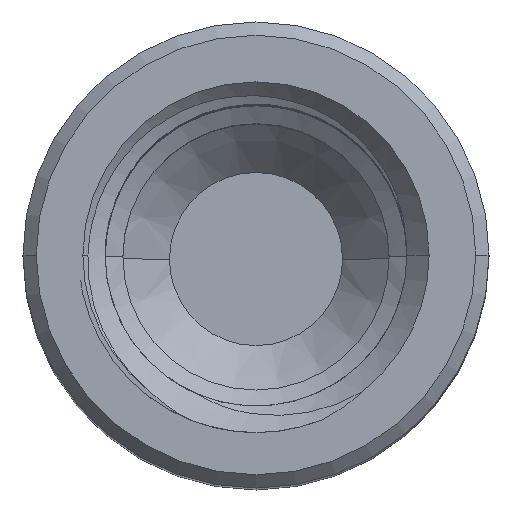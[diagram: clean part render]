
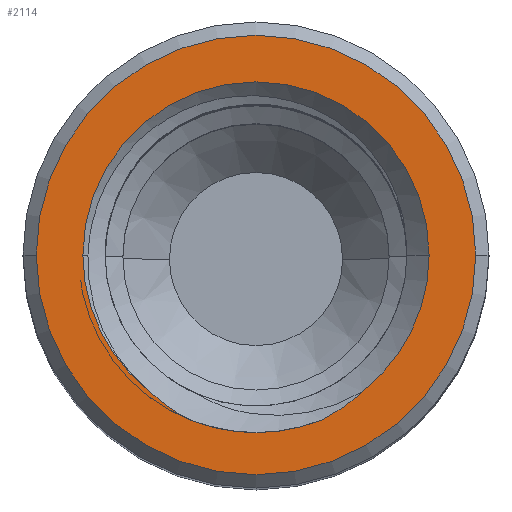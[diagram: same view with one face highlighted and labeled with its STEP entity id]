
A CAD part, top view. The second image highlights one B-rep face of the part: STEP entity #2114.
In plain terms, the highlighted planar face has unit normal (0, 0, 1).
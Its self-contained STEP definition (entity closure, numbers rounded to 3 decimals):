
#133 = AXIS2_PLACEMENT_3D ( 'NONE', #3937, #3227, #4318 ) ;
#154 = AXIS2_PLACEMENT_3D ( 'NONE', #735, #1489, #1882 ) ;
#292 = ORIENTED_EDGE ( 'NONE', *, *, #495, .F. ) ;
#330 = CARTESIAN_POINT ( 'NONE',  ( 0., 0., 52. ) ) ;
#353 = VERTEX_POINT ( 'NONE', #4507 ) ;
#361 = DIRECTION ( 'NONE',  ( 1., 0., 0. ) ) ;
#393 = CIRCLE ( 'NONE', #3859, 3.9 ) ;
#480 = CARTESIAN_POINT ( 'NONE',  ( 0., 0., 52. ) ) ;
#495 = EDGE_CURVE ( 'NONE', #3508, #1969, #537, .T. ) ;
#501 = DIRECTION ( 'NONE',  ( 0., 0., -1. ) ) ;
#537 = CIRCLE ( 'NONE', #1419, 4. ) ;
#662 = ORIENTED_EDGE ( 'NONE', *, *, #4738, .T. ) ;
#664 = CARTESIAN_POINT ( 'NONE',  ( 3.9, 0., 52. ) ) ;
#721 = CARTESIAN_POINT ( 'NONE',  ( 0., 0., 52. ) ) ;
#735 = CARTESIAN_POINT ( 'NONE',  ( 0., 0., 52. ) ) ;
#880 = CARTESIAN_POINT ( 'NONE',  ( 2.125, -3.33, 52. ) ) ;
#1036 = ORIENTED_EDGE ( 'NONE', *, *, #4708, .F. ) ;
#1209 = EDGE_CURVE ( 'NONE', #1969, #353, #2858, .T. ) ;
#1253 = AXIS2_PLACEMENT_3D ( 'NONE', #2070, #3629, #4797 ) ;
#1282 = CARTESIAN_POINT ( 'NONE',  ( -2.395, -3.078, 52. ) ) ;
#1416 = ORIENTED_EDGE ( 'NONE', *, *, #4701, .F. ) ;
#1419 = AXIS2_PLACEMENT_3D ( 'NONE', #4947, #1914, #361 ) ;
#1437 = AXIS2_PLACEMENT_3D ( 'NONE', #330, #3085, #1534 ) ;
#1489 = DIRECTION ( 'NONE',  ( 0., 0., 1. ) ) ;
#1504 = CARTESIAN_POINT ( 'NONE',  ( -3.9, 0., 52. ) ) ;
#1534 = DIRECTION ( 'NONE',  ( 1., 0., 0. ) ) ;
#1593 = CARTESIAN_POINT ( 'NONE',  ( 4.95, 0., 52. ) ) ;
#1627 = FACE_OUTER_BOUND ( 'NONE', #3578, .T. ) ;
#1689 = EDGE_LOOP ( 'NONE', ( #2349, #292, #1036, #1416, #2827, #3882, #4684 ) ) ;
#1882 = DIRECTION ( 'NONE',  ( 1., 0., 0. ) ) ;
#1914 = DIRECTION ( 'NONE',  ( 0., 0., 1. ) ) ;
#1969 = VERTEX_POINT ( 'NONE', #4257 ) ;
#2052 = VERTEX_POINT ( 'NONE', #664 ) ;
#2070 = CARTESIAN_POINT ( 'NONE',  ( 0., 0., 52. ) ) ;
#2114 = ADVANCED_FACE ( 'NONE', ( #3391, #1627 ), #2461, .T. ) ;
#2146 = DIRECTION ( 'NONE',  ( 1., 0., 0. ) ) ;
#2157 = CIRCLE ( 'NONE', #154, 4.95 ) ;
#2214 = CARTESIAN_POINT ( 'NONE',  ( -2.129, -3.327, 52. ) ) ;
#2215 = CIRCLE ( 'NONE', #1253, 3.9 ) ;
#2272 = CARTESIAN_POINT ( 'NONE',  ( -1.495, -3.71, 52. ) ) ;
#2280 = EDGE_CURVE ( 'NONE', #3962, #2891, #2714, .T. ) ;
#2349 = ORIENTED_EDGE ( 'NONE', *, *, #1209, .F. ) ;
#2383 = AXIS2_PLACEMENT_3D ( 'NONE', #3351, #3791, #4521 ) ;
#2392 = VERTEX_POINT ( 'NONE', #3814 ) ;
#2403 = AXIS2_PLACEMENT_3D ( 'NONE', #480, #501, #3538 ) ;
#2416 = CARTESIAN_POINT ( 'NONE',  ( 2.395, -3.078, 52. ) ) ;
#2461 = PLANE ( 'NONE',  #133 ) ;
#2478 = VERTEX_POINT ( 'NONE', #1504 ) ;
#2651 = EDGE_CURVE ( 'NONE', #2478, #2052, #2215, .T. ) ;
#2714 = CIRCLE ( 'NONE', #2383, 4.95 ) ;
#2827 = ORIENTED_EDGE ( 'NONE', *, *, #3749, .T. ) ;
#2858 = B_SPLINE_CURVE_WITH_KNOTS ( 'NONE', 3,
 ( #4728, #4348, #880, #2416 ),
 .UNSPECIFIED., .F., .F.,
 ( 4, 4 ),
 ( 0., 0.001 ),
 .UNSPECIFIED. ) ;
#2891 = VERTEX_POINT ( 'NONE', #1593 ) ;
#3030 = CARTESIAN_POINT ( 'NONE',  ( -1.824, -3.542, 52. ) ) ;
#3085 = DIRECTION ( 'NONE',  ( 0., 0., 1. ) ) ;
#3227 = DIRECTION ( 'NONE',  ( 0., 0., 1. ) ) ;
#3351 = CARTESIAN_POINT ( 'NONE',  ( 0., 0., 52. ) ) ;
#3391 = FACE_BOUND ( 'NONE', #1689, .T. ) ;
#3508 = VERTEX_POINT ( 'NONE', #4468 ) ;
#3521 = B_SPLINE_CURVE_WITH_KNOTS ( 'NONE', 3,
 ( #3871, #2214, #3030, #2272 ),
 .UNSPECIFIED., .F., .F.,
 ( 4, 4 ),
 ( 0.009, 0.01 ),
 .UNSPECIFIED. ) ;
#3538 = DIRECTION ( 'NONE',  ( 1., 0., 0. ) ) ;
#3578 = EDGE_LOOP ( 'NONE', ( #4057, #662 ) ) ;
#3629 = DIRECTION ( 'NONE',  ( 0., 0., -1. ) ) ;
#3727 = DIRECTION ( 'NONE',  ( 0., 0., -1. ) ) ;
#3749 = EDGE_CURVE ( 'NONE', #4914, #2478, #393, .T. ) ;
#3791 = DIRECTION ( 'NONE',  ( 0., 0., 1. ) ) ;
#3814 = CARTESIAN_POINT ( 'NONE',  ( -1.495, -3.71, 52. ) ) ;
#3859 = AXIS2_PLACEMENT_3D ( 'NONE', #721, #3727, #2146 ) ;
#3871 = CARTESIAN_POINT ( 'NONE',  ( -2.395, -3.078, 52. ) ) ;
#3877 = CARTESIAN_POINT ( 'NONE',  ( -4.95, 0., 52. ) ) ;
#3882 = ORIENTED_EDGE ( 'NONE', *, *, #2651, .T. ) ;
#3937 = CARTESIAN_POINT ( 'NONE',  ( -5.25, 0., 52. ) ) ;
#3962 = VERTEX_POINT ( 'NONE', #3877 ) ;
#4057 = ORIENTED_EDGE ( 'NONE', *, *, #2280, .T. ) ;
#4257 = CARTESIAN_POINT ( 'NONE',  ( 1.495, -3.71, 52. ) ) ;
#4271 = CIRCLE ( 'NONE', #2403, 3.9 ) ;
#4318 = DIRECTION ( 'NONE',  ( 1., 0., 0. ) ) ;
#4348 = CARTESIAN_POINT ( 'NONE',  ( 1.826, -3.541, 52. ) ) ;
#4425 = CIRCLE ( 'NONE', #1437, 4. ) ;
#4468 = CARTESIAN_POINT ( 'NONE',  ( 0., -4., 52. ) ) ;
#4507 = CARTESIAN_POINT ( 'NONE',  ( 2.395, -3.078, 52. ) ) ;
#4521 = DIRECTION ( 'NONE',  ( 1., 0., 0. ) ) ;
#4684 = ORIENTED_EDGE ( 'NONE', *, *, #4872, .T. ) ;
#4701 = EDGE_CURVE ( 'NONE', #4914, #2392, #3521, .T. ) ;
#4708 = EDGE_CURVE ( 'NONE', #2392, #3508, #4425, .T. ) ;
#4728 = CARTESIAN_POINT ( 'NONE',  ( 1.495, -3.71, 52. ) ) ;
#4738 = EDGE_CURVE ( 'NONE', #2891, #3962, #2157, .T. ) ;
#4797 = DIRECTION ( 'NONE',  ( 1., 0., 0. ) ) ;
#4872 = EDGE_CURVE ( 'NONE', #2052, #353, #4271, .T. ) ;
#4914 = VERTEX_POINT ( 'NONE', #1282 ) ;
#4947 = CARTESIAN_POINT ( 'NONE',  ( 0., 0., 52. ) ) ;
